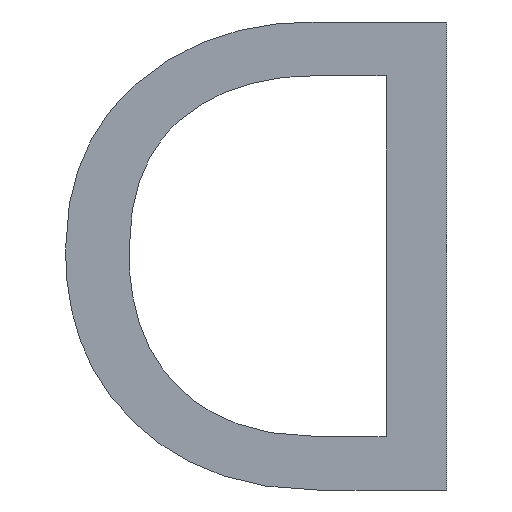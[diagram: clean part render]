
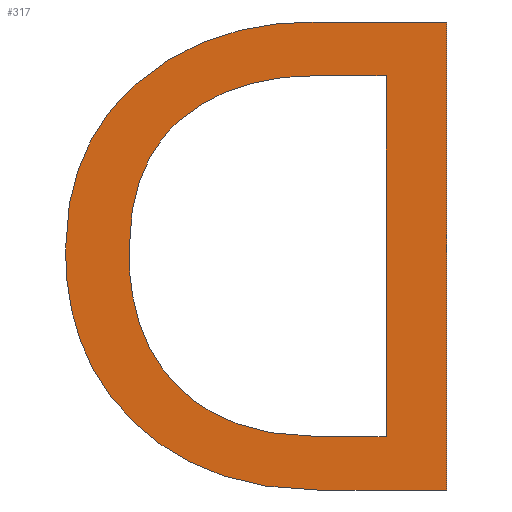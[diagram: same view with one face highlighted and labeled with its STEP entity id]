
A CAD part, left-side view. The second image highlights one B-rep face of the part: STEP entity #317.
In plain terms, the highlighted planar face has unit normal (-1, 0, 0).
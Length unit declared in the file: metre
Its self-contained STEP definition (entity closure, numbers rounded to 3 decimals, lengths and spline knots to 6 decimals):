
#18=PLANE('',#434);
#25=LINE('',#561,#51);
#28=LINE('',#567,#54);
#31=LINE('',#573,#57);
#33=LINE('',#576,#59);
#37=LINE('',#585,#63);
#44=LINE('',#667,#70);
#51=VECTOR('',#445,1.);
#54=VECTOR('',#450,1.);
#57=VECTOR('',#455,1.);
#59=VECTOR('',#459,1.);
#63=VECTOR('',#465,1.);
#70=VECTOR('',#474,1.);
#128=ORIENTED_EDGE('',*,*,#175,.T.);
#129=ORIENTED_EDGE('',*,*,#172,.T.);
#130=ORIENTED_EDGE('',*,*,#169,.T.);
#131=ORIENTED_EDGE('',*,*,#166,.T.);
#132=ORIENTED_EDGE('',*,*,#163,.T.);
#133=ORIENTED_EDGE('',*,*,#160,.T.);
#134=ORIENTED_EDGE('',*,*,#156,.T.);
#135=ORIENTED_EDGE('',*,*,#196,.F.);
#136=ORIENTED_EDGE('',*,*,#177,.F.);
#137=ORIENTED_EDGE('',*,*,#181,.F.);
#138=ORIENTED_EDGE('',*,*,#184,.F.);
#139=ORIENTED_EDGE('',*,*,#187,.F.);
#140=ORIENTED_EDGE('',*,*,#190,.F.);
#141=ORIENTED_EDGE('',*,*,#193,.F.);
#156=EDGE_CURVE('',#198,#199,#226,.T.);
#160=EDGE_CURVE('',#202,#198,#228,.T.);
#163=EDGE_CURVE('',#204,#202,#230,.T.);
#166=EDGE_CURVE('',#206,#204,#232,.T.);
#169=EDGE_CURVE('',#208,#206,#25,.T.);
#172=EDGE_CURVE('',#210,#208,#28,.T.);
#175=EDGE_CURVE('',#199,#210,#31,.T.);
#177=EDGE_CURVE('',#212,#213,#33,.T.);
#181=EDGE_CURVE('',#216,#212,#37,.T.);
#184=EDGE_CURVE('',#218,#216,#234,.T.);
#187=EDGE_CURVE('',#220,#218,#236,.T.);
#190=EDGE_CURVE('',#222,#220,#238,.T.);
#193=EDGE_CURVE('',#224,#222,#240,.T.);
#196=EDGE_CURVE('',#213,#224,#44,.T.);
#198=VERTEX_POINT('',#493);
#199=VERTEX_POINT('',#494);
#202=VERTEX_POINT('',#515);
#204=VERTEX_POINT('',#534);
#206=VERTEX_POINT('',#553);
#208=VERTEX_POINT('',#562);
#210=VERTEX_POINT('',#568);
#212=VERTEX_POINT('',#577);
#213=VERTEX_POINT('',#578);
#216=VERTEX_POINT('',#586);
#218=VERTEX_POINT('',#602);
#220=VERTEX_POINT('',#621);
#222=VERTEX_POINT('',#640);
#224=VERTEX_POINT('',#659);
#226=B_SPLINE_CURVE_WITH_KNOTS('',3,(#489,#490,#491,#492),.UNSPECIFIED.,
 .F.,.F.,(4,4),(5.,6.),.UNSPECIFIED.);
#228=B_SPLINE_CURVE_WITH_KNOTS('',3,(#511,#512,#513,#514),.UNSPECIFIED.,
 .F.,.F.,(4,4),(4.,5.),.UNSPECIFIED.);
#230=B_SPLINE_CURVE_WITH_KNOTS('',3,(#530,#531,#532,#533),.UNSPECIFIED.,
 .F.,.F.,(4,4),(3.,4.),.UNSPECIFIED.);
#232=B_SPLINE_CURVE_WITH_KNOTS('',3,(#549,#550,#551,#552),.UNSPECIFIED.,
 .F.,.F.,(4,4),(2.,3.),.UNSPECIFIED.);
#234=B_SPLINE_CURVE_WITH_KNOTS('',3,(#598,#599,#600,#601),.UNSPECIFIED.,
 .F.,.F.,(4,4),(2.,3.),.UNSPECIFIED.);
#236=B_SPLINE_CURVE_WITH_KNOTS('',3,(#617,#618,#619,#620),.UNSPECIFIED.,
 .F.,.F.,(4,4),(3.,4.),.UNSPECIFIED.);
#238=B_SPLINE_CURVE_WITH_KNOTS('',3,(#636,#637,#638,#639),.UNSPECIFIED.,
 .F.,.F.,(4,4),(4.,5.),.UNSPECIFIED.);
#240=B_SPLINE_CURVE_WITH_KNOTS('',3,(#655,#656,#657,#658),.UNSPECIFIED.,
 .F.,.F.,(4,4),(5.,6.),.UNSPECIFIED.);
#256=EDGE_LOOP('',(#128,#129,#130,#131,#132,#133,#134));
#257=EDGE_LOOP('',(#135,#136,#137,#138,#139,#140,#141));
#274=FACE_BOUND('',#256,.T.);
#275=FACE_BOUND('',#257,.T.);
#317=ADVANCED_FACE('',(#274,#275),#18,.F.);
#434=AXIS2_PLACEMENT_3D('',#669,#476,#477);
#445=DIRECTION('',(0.,1.,0.));
#450=DIRECTION('',(0.,0.,-1.));
#455=DIRECTION('',(0.,-1.,0.));
#459=DIRECTION('',(0.,0.,-1.));
#465=DIRECTION('',(0.,-1.,0.));
#474=DIRECTION('',(0.,1.,0.));
#476=DIRECTION('',(1.,0.,0.));
#477=DIRECTION('',(0.,0.,-1.));
#489=CARTESIAN_POINT('',(-0.056786,-0.011257,0.013834));
#490=CARTESIAN_POINT('',(-0.056786,-0.011286,0.01386));
#491=CARTESIAN_POINT('',(-0.056786,-0.011325,0.013873));
#492=CARTESIAN_POINT('',(-0.056786,-0.011374,0.013873));
#493=CARTESIAN_POINT('',(-0.056786,-0.011257,0.013834));
#494=CARTESIAN_POINT('',(-0.056786,-0.011374,0.013873));
#511=CARTESIAN_POINT('',(-0.056786,-0.011212,0.01372));
#512=CARTESIAN_POINT('',(-0.056786,-0.011212,0.01377));
#513=CARTESIAN_POINT('',(-0.056786,-0.011227,0.013809));
#514=CARTESIAN_POINT('',(-0.056786,-0.011257,0.013834));
#515=CARTESIAN_POINT('',(-0.056786,-0.011212,0.01372));
#530=CARTESIAN_POINT('',(-0.056786,-0.011255,0.013601));
#531=CARTESIAN_POINT('',(-0.056786,-0.011226,0.013629));
#532=CARTESIAN_POINT('',(-0.056786,-0.011212,0.013669));
#533=CARTESIAN_POINT('',(-0.056786,-0.011212,0.01372));
#534=CARTESIAN_POINT('',(-0.056786,-0.011255,0.013601));
#549=CARTESIAN_POINT('',(-0.056786,-0.011376,0.013559));
#550=CARTESIAN_POINT('',(-0.056786,-0.011325,0.013559));
#551=CARTESIAN_POINT('',(-0.056786,-0.011284,0.013573));
#552=CARTESIAN_POINT('',(-0.056786,-0.011255,0.013601));
#553=CARTESIAN_POINT('',(-0.056786,-0.011376,0.013559));
#561=CARTESIAN_POINT('',(-0.056786,-0.011435,0.013559));
#562=CARTESIAN_POINT('',(-0.056786,-0.011435,0.013559));
#567=CARTESIAN_POINT('',(-0.056786,-0.011435,0.013873));
#568=CARTESIAN_POINT('',(-0.056786,-0.011435,0.013873));
#573=CARTESIAN_POINT('',(-0.056786,-0.011374,0.013873));
#576=CARTESIAN_POINT('',(-0.056786,-0.011488,0.013513));
#577=CARTESIAN_POINT('',(-0.056786,-0.011488,0.013919));
#578=CARTESIAN_POINT('',(-0.056786,-0.011488,0.013513));
#585=CARTESIAN_POINT('',(-0.056786,-0.011488,0.013919));
#586=CARTESIAN_POINT('',(-0.056786,-0.011372,0.013919));
#598=CARTESIAN_POINT('',(-0.056786,-0.011218,0.013865));
#599=CARTESIAN_POINT('',(-0.056786,-0.011259,0.013901));
#600=CARTESIAN_POINT('',(-0.056786,-0.01131,0.013919));
#601=CARTESIAN_POINT('',(-0.056786,-0.011372,0.013919));
#602=CARTESIAN_POINT('',(-0.056786,-0.011218,0.013865));
#617=CARTESIAN_POINT('',(-0.056786,-0.011157,0.013721));
#618=CARTESIAN_POINT('',(-0.056786,-0.011157,0.013781));
#619=CARTESIAN_POINT('',(-0.056786,-0.011177,0.013829));
#620=CARTESIAN_POINT('',(-0.056786,-0.011218,0.013865));
#621=CARTESIAN_POINT('',(-0.056786,-0.011157,0.013721));
#636=CARTESIAN_POINT('',(-0.056786,-0.011218,0.01357));
#637=CARTESIAN_POINT('',(-0.056786,-0.011177,0.013608));
#638=CARTESIAN_POINT('',(-0.056786,-0.011157,0.013658));
#639=CARTESIAN_POINT('',(-0.056786,-0.011157,0.013721));
#640=CARTESIAN_POINT('',(-0.056786,-0.011218,0.01357));
#655=CARTESIAN_POINT('',(-0.056786,-0.011376,0.013513));
#656=CARTESIAN_POINT('',(-0.056786,-0.011312,0.013513));
#657=CARTESIAN_POINT('',(-0.056786,-0.011259,0.013531));
#658=CARTESIAN_POINT('',(-0.056786,-0.011218,0.01357));
#659=CARTESIAN_POINT('',(-0.056786,-0.011376,0.013513));
#667=CARTESIAN_POINT('',(-0.056786,-0.011376,0.013513));
#669=CARTESIAN_POINT('',(-0.056786,-0.011287,0.013906));
